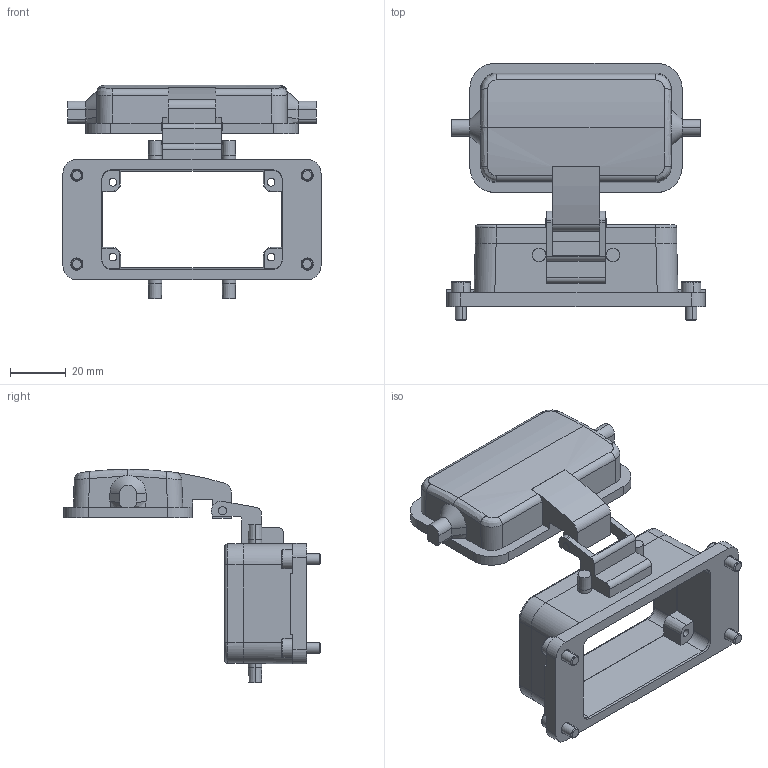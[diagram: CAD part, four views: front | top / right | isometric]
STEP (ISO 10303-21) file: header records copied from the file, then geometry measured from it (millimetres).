
FILE_DESCRIPTION (( 'STEP AP214' ), '1' );
FILE_NAME ('E2714_10B.STEP', '2013-04-05T07:38:33', ( '' ), ( '' ), 'SwSTEP 2.0', 'SolidWorks 2012', '' );
FILE_SCHEMA (( 'AUTOMOTIVE_DESIGN' ));
Length unit declared in the file: millimetre
Products named in the file (3): E1200_4x10; E2714_10B
Assembly tree (5 placements, depth 2):
  E2714_10B
    E2714_10B
    E1200_4x10  x4
Bounding box: 93 x 92.64 x 76.92 mm (x, y, z)
Volume: 49672.5 mm3; surface area: 34296.7 mm2
Topology: 5 solids, 7 shells, 338 faces, 825 edges, 519 vertices
Faces by surface type: plane 170, cylinder 103, bspline 45, cone 20
Entity records: 13017 total; most frequent: CARTESIAN_POINT 3140, ORIENTED_EDGE 1422, DIRECTION 1303, EDGE_CURVE 711, LINE 449, VECTOR 449, VERTEX_POINT 447, AXIS2_PLACEMENT_3D 427
